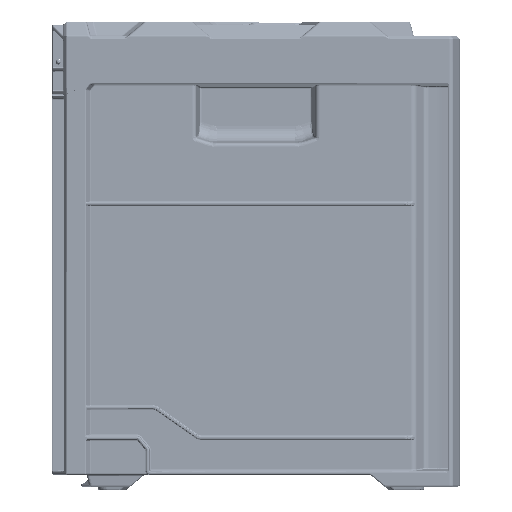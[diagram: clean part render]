
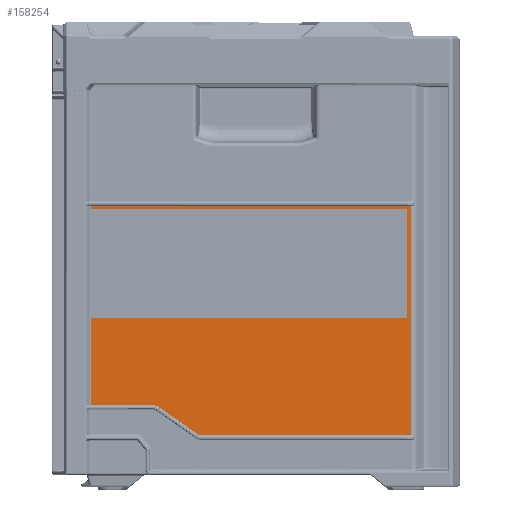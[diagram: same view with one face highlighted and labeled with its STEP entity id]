
A CAD part, left-side view. The second image highlights one B-rep face of the part: STEP entity #158254.
In plain terms, the highlighted planar face has unit normal (-1, 0, 0).
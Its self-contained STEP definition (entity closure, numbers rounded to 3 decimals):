
#80313=ELLIPSE('',#373392,4.502,4.5);
#80314=ELLIPSE('',#373408,7.503,7.5);
#96684=LINE('',#601205,#112266);
#96685=LINE('',#601224,#112267);
#96686=LINE('',#601229,#112268);
#96688=LINE('',#601235,#112270);
#96692=LINE('',#601245,#112274);
#96696=LINE('',#601255,#112278);
#96698=LINE('',#601263,#112280);
#96748=LINE('',#602520,#112330);
#96749=LINE('',#602521,#112331);
#96750=LINE('',#602522,#112332);
#112266=VECTOR('',#416986,1.);
#112267=VECTOR('',#416995,1.);
#112268=VECTOR('',#417000,1.);
#112270=VECTOR('',#417006,1.);
#112274=VECTOR('',#417016,1.);
#112278=VECTOR('',#417026,1.);
#112280=VECTOR('',#417034,1.);
#112330=VECTOR('',#417402,1.);
#112331=VECTOR('',#417403,1.);
#112332=VECTOR('',#417404,1.);
#130877=PLANE('',#373566);
#140501=FACE_OUTER_BOUND('',#177303,.T.);
#158254=ADVANCED_FACE('',(#140501),#130877,.T.);
#177303=EDGE_LOOP('',(#231711,#231712,#231713,#231714,#231715,#231716,#231717,
#231718,#231719,#231720,#231721,#231722,#231723,#231724));
#192625=CIRCLE('',#373399,0.5);
#192626=CIRCLE('',#373402,0.5);
#231711=ORIENTED_EDGE('',*,*,#326918,.T.);
#231712=ORIENTED_EDGE('',*,*,#326894,.T.);
#231713=ORIENTED_EDGE('',*,*,#326896,.T.);
#231714=ORIENTED_EDGE('',*,*,#326898,.T.);
#231715=ORIENTED_EDGE('',*,*,#327118,.T.);
#231716=ORIENTED_EDGE('',*,*,#326900,.T.);
#231717=ORIENTED_EDGE('',*,*,#327119,.T.);
#231718=ORIENTED_EDGE('',*,*,#326903,.T.);
#231719=ORIENTED_EDGE('',*,*,#326906,.T.);
#231720=ORIENTED_EDGE('',*,*,#326908,.T.);
#231721=ORIENTED_EDGE('',*,*,#326910,.T.);
#231722=ORIENTED_EDGE('',*,*,#326913,.T.);
#231723=ORIENTED_EDGE('',*,*,#327120,.T.);
#231724=ORIENTED_EDGE('',*,*,#326917,.T.);
#294671=VERTEX_POINT('',#601202);
#294672=VERTEX_POINT('',#601204);
#294673=VERTEX_POINT('',#601208);
#294674=VERTEX_POINT('',#601223);
#294676=VERTEX_POINT('',#601228);
#294677=VERTEX_POINT('',#601230);
#294679=VERTEX_POINT('',#601236);
#294680=VERTEX_POINT('',#601237);
#294681=VERTEX_POINT('',#601242);
#294682=VERTEX_POINT('',#601246);
#294683=VERTEX_POINT('',#601250);
#294684=VERTEX_POINT('',#601254);
#294685=VERTEX_POINT('',#601258);
#294687=VERTEX_POINT('',#601262);
#326894=EDGE_CURVE('',#294671,#294672,#96684,.T.);
#326896=EDGE_CURVE('',#294672,#294673,#80313,.T.);
#326898=EDGE_CURVE('',#294673,#294674,#96685,.T.);
#326900=EDGE_CURVE('',#294677,#294676,#96686,.T.);
#326903=EDGE_CURVE('',#294679,#294680,#96688,.T.);
#326906=EDGE_CURVE('',#294680,#294681,#192625,.T.);
#326908=EDGE_CURVE('',#294681,#294682,#96692,.T.);
#326910=EDGE_CURVE('',#294682,#294683,#192626,.T.);
#326913=EDGE_CURVE('',#294683,#294684,#96696,.T.);
#326917=EDGE_CURVE('',#294685,#294687,#96698,.T.);
#326918=EDGE_CURVE('',#294687,#294671,#80314,.T.);
#327118=EDGE_CURVE('',#294674,#294677,#96748,.T.);
#327119=EDGE_CURVE('',#294676,#294679,#96749,.T.);
#327120=EDGE_CURVE('',#294684,#294685,#96750,.T.);
#373392=AXIS2_PLACEMENT_3D('',#601209,#416991,#416992);
#373399=AXIS2_PLACEMENT_3D('',#601241,#417011,#417012);
#373402=AXIS2_PLACEMENT_3D('',#601249,#417020,#417021);
#373408=AXIS2_PLACEMENT_3D('',#601265,#417037,#417038);
#373566=AXIS2_PLACEMENT_3D('',#602523,#417405,#417406);
#416986=DIRECTION('',(0.,-0.819,-0.574));
#416991=DIRECTION('',(-1.,0.,0.));
#416992=DIRECTION('',(0.,0.301,-0.954));
#416995=DIRECTION('',(0.,-1.,0.));
#417000=DIRECTION('',(0.,1.,0.));
#417006=DIRECTION('',(0.,-1.,0.));
#417011=DIRECTION('',(1.,0.,0.));
#417012=DIRECTION('',(0.,0.,-1.));
#417016=DIRECTION('',(0.,0.,-1.));
#417020=DIRECTION('',(1.,0.,0.));
#417021=DIRECTION('',(0.,0.,-1.));
#417026=DIRECTION('',(0.,1.,0.));
#417034=DIRECTION('',(0.,-1.,0.));
#417037=DIRECTION('',(1.,0.,0.));
#417038=DIRECTION('',(0.,-0.301,0.954));
#417402=DIRECTION('',(0.,0.,1.));
#417403=DIRECTION('',(0.,0.,-1.));
#417404=DIRECTION('',(0.,0.,-1.));
#417405=DIRECTION('',(-1.,0.,0.));
#417406=DIRECTION('',(0.,0.,-1.));
#601202=CARTESIAN_POINT('',(-392.5,-77.447,-244.738));
#601204=CARTESIAN_POINT('',(-392.5,-105.768,-264.568));
#601205=CARTESIAN_POINT('',(-392.5,-77.443,-244.736));
#601208=CARTESIAN_POINT('',(-392.5,-108.348,-265.382));
#601209=CARTESIAN_POINT('',(-392.5,-108.349,-260.88));
#601223=CARTESIAN_POINT('',(-392.5,-260.493,-265.382));
#601224=CARTESIAN_POINT('',(-392.5,-108.352,-265.382));
#601228=CARTESIAN_POINT('',(-392.5,-28.093,-98.618));
#601229=CARTESIAN_POINT('',(-392.5,0.,-98.618));
#601230=CARTESIAN_POINT('',(-392.5,-260.493,-98.618));
#601235=CARTESIAN_POINT('',(-392.5,-143.093,-100.75));
#601236=CARTESIAN_POINT('',(-392.5,-28.093,-100.75));
#601237=CARTESIAN_POINT('',(-392.5,-257.593,-100.75));
#601241=CARTESIAN_POINT('',(-392.5,-257.593,-101.25));
#601242=CARTESIAN_POINT('',(-392.5,-258.093,-101.25));
#601245=CARTESIAN_POINT('',(-392.5,-258.093,-140.25));
#601246=CARTESIAN_POINT('',(-392.5,-258.093,-179.25));
#601249=CARTESIAN_POINT('',(-392.5,-257.593,-179.25));
#601250=CARTESIAN_POINT('',(-392.5,-257.593,-179.75));
#601254=CARTESIAN_POINT('',(-392.5,-28.093,-179.75));
#601255=CARTESIAN_POINT('',(-392.5,-143.093,-179.75));
#601258=CARTESIAN_POINT('',(-392.5,-28.093,-243.382));
#601262=CARTESIAN_POINT('',(-392.5,-73.146,-243.382));
#601263=CARTESIAN_POINT('',(-392.5,-28.093,-243.382));
#601265=CARTESIAN_POINT('',(-392.5,-73.145,-250.885));
#602520=CARTESIAN_POINT('',(-392.5,-260.493,-290.969));
#602521=CARTESIAN_POINT('',(-392.5,-28.093,0.));
#602522=CARTESIAN_POINT('',(-392.5,-28.093,0.));
#602523=CARTESIAN_POINT('',(-392.5,0.,0.));
